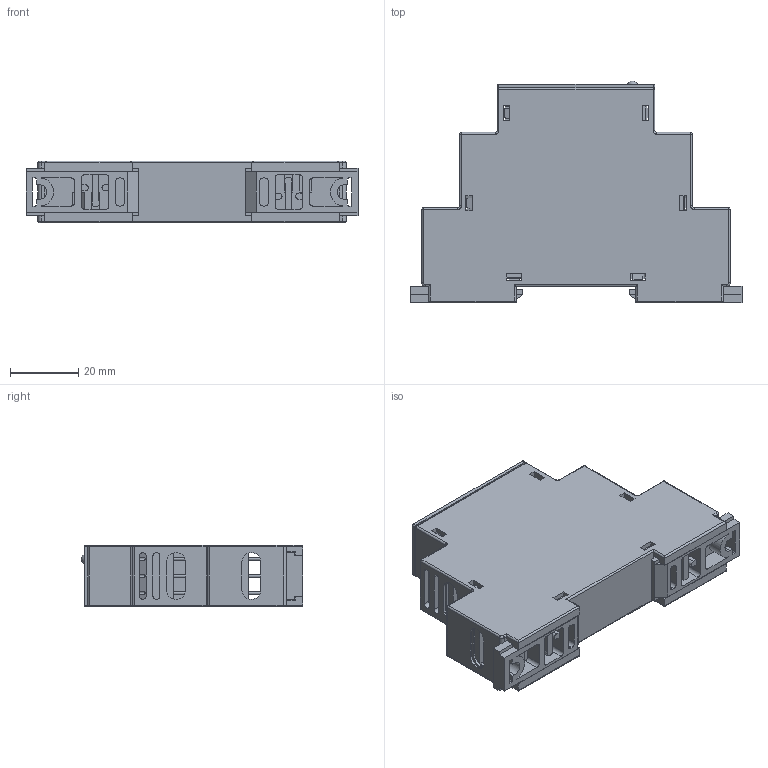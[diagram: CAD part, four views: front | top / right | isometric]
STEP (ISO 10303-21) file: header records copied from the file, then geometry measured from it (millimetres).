
FILE_DESCRIPTION(('STEP AP214'), '1');
FILE_NAME('凎錼 俵32 (3D 諘罻踮鴀鳭)', '', ('UNSPECIFIED'), ('UNSPECIFIED'), 'ASCON STEP Converter 1.6', 'ASCON Math Kernel', '');
FILE_SCHEMA(('AUTOMOTIVE_DESIGN { 1 0 10303 214 3 1 1}'));
Length unit declared in the file: millimetre
Bounding box: 97 x 64.8 x 18 mm (x, y, z)
Volume: 25008.7 mm3; surface area: 36275 mm2
Topology: 2 solids, 2 shells, 6042 faces, 17129 edges, 11256 vertices
Faces by surface type: plane 2981, cylinder 2965, torus 39, cone 26, bspline 18, sphere 13
Full cylindrical faces by diameter (mm): 1 x18, 2.2 x2, 2.5 x9, 2.8 x9, 2.997 x1, 3 x9, 3.1 x1, 3.42 x9
Entity records: 250509 total; most frequent: CARTESIAN_POINT 40248, DIRECTION 34753, ORIENTED_EDGE 34036, EDGE_CURVE 17018, AXIS2_PLACEMENT_3D 11912, VERTEX_POINT 11245, LINE 10929, VECTOR 10929
